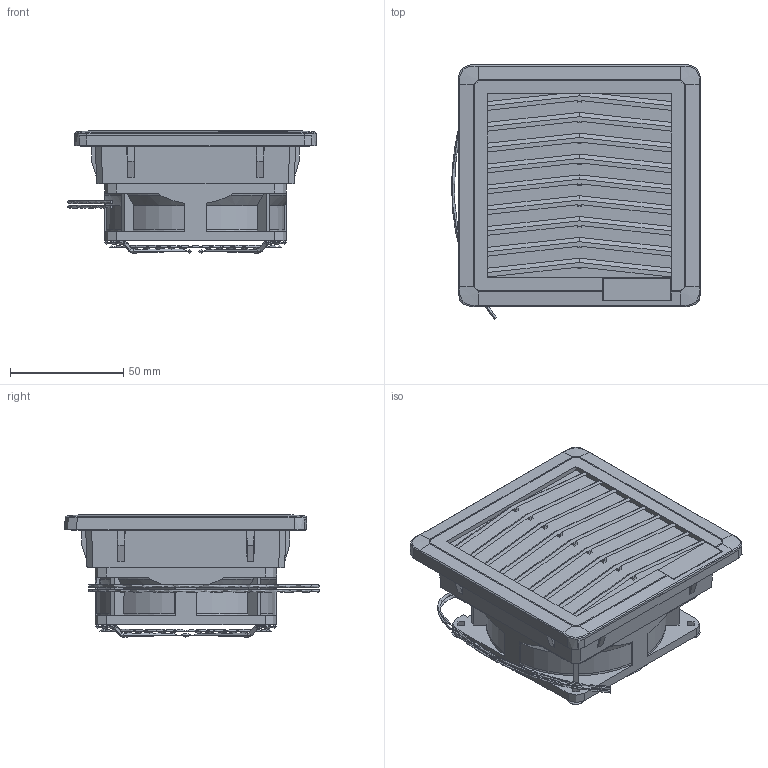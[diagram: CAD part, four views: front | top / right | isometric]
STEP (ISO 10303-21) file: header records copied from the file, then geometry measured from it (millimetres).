
FILE_DESCRIPTION(/* description */ (''),/* implementation_level */ '2;1');
FILE_NAME(/* name */ 'FF08DxxyNR',/* time_stamp */ '2025-10-30T10:30:14+01:00',/* author */ (''),/* organization */ (''),/* preprocessor_version */ 'ST-DEVELOPER v16.5',/* originating_system */ 'Rhino 7.38',/* authorisation */ '');
FILE_SCHEMA (('AUTOMOTIVE_DESIGN'));
Length unit declared in the file: millimetre
Products named in the file (7): Document; FF08DxxyNR_DT-01225DSI; DT-00242DSI_Coperchio semplificato; FF08BGJ-xxxx_base semplificata; DT-02365DSI; DT-04082DSI_mostrina semplificata; DT-02374DSI_Semplificato
Assembly tree (6 placements, depth 3):
  Document
    FF08DxxyNR_DT-01225DSI
      DT-00242DSI_Coperchio semplificato
      FF08BGJ-xxxx_base semplificata
      DT-02365DSI
      DT-04082DSI_mostrina semplificata
      DT-02374DSI_Semplificato
Bounding box: 109.65 x 112.06 x 53.9 mm (x, y, z)
Volume: 364812 mm3; surface area: 87434.6 mm2
Topology: 5 solids, 5 shells, 423 faces, 1172 edges, 764 vertices
Faces by surface type: plane 210, bspline 138, cylinder 75
Entity records: 22937 total; most frequent: CARTESIAN_POINT 15243, ORIENTED_EDGE 2344, EDGE_CURVE 1172, B_SPLINE_CURVE_WITH_KNOTS 786, VERTEX_POINT 764, EDGE_LOOP 482, ADVANCED_FACE 423, FACE_OUTER_BOUND 423
